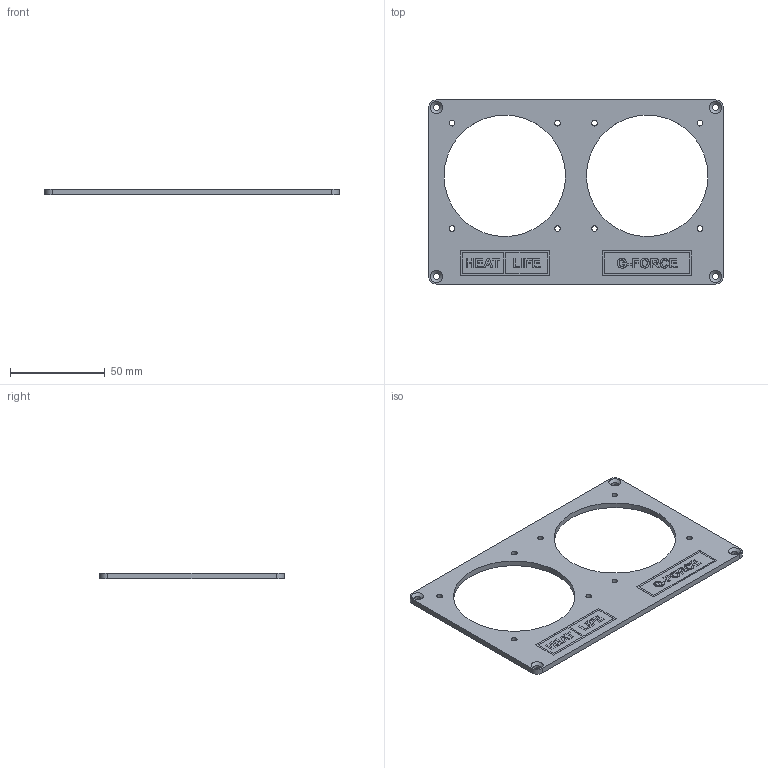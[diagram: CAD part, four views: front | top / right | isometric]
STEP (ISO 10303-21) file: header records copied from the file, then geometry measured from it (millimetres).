
FILE_DESCRIPTION(/* description */ (''),/* implementation_level */ '2;1');
FILE_NAME(/* name */ 'C:/Users/anton/Documents/Kerbal Space Program/Kerbal_Control_Panel/KCP2/CAD/STEPs/ModuleC_v4.step',/* time_stamp */ '2020-11-12T07:52:00-08:00',/* author */ (''),/* organization */ (''),/* preprocessor_version */ 'ST-DEVELOPER v18.1',/* originating_system */ 'Autodesk Translation Framework v9.3.0.1241',/* authorisation */ '');
FILE_SCHEMA (('AUTOMOTIVE_DESIGN { 1 0 10303 214 3 1 1 }'));
Length unit declared in the file: millimetre
Products named in the file (1): C-Plate
Bounding box: 155 x 97 x 3.02 mm (x, y, z)
Volume: 25441.7 mm3; surface area: 22470.2 mm2
Topology: 3 solids, 3 shells, 261 faces, 698 edges, 464 vertices
Faces by surface type: plane 171, bspline 68, cylinder 18, cone 4
Full cylindrical faces by diameter (mm): 3 x8, 3.4 x4, 64 x2
Entity records: 8930 total; most frequent: CARTESIAN_POINT 2714, ORIENTED_EDGE 1396, DIRECTION 990, EDGE_CURVE 698, LINE 522, VECTOR 522, VERTEX_POINT 464, EDGE_LOOP 310
